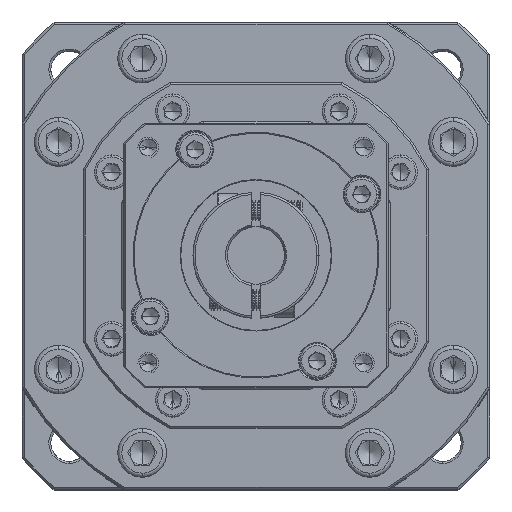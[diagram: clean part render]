
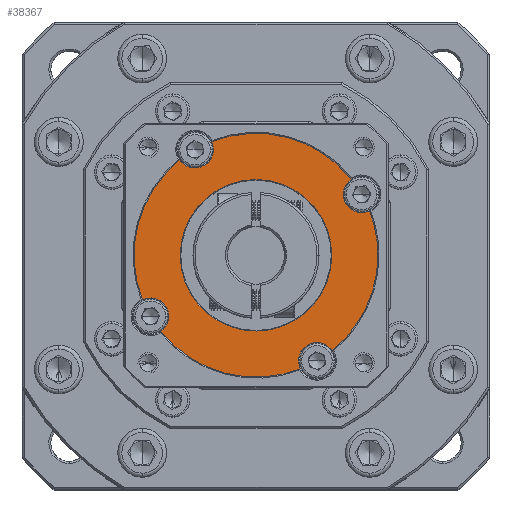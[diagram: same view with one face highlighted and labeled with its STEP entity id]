
A CAD part, top view. The second image highlights one B-rep face of the part: STEP entity #38367.
In plain terms, the highlighted planar face has unit normal (0, 0, 1).
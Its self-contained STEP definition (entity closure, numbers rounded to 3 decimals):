
#211 = DIRECTION ( 'NONE',  ( 1., 0., 0. ) ) ;
#221 = CARTESIAN_POINT ( 'NONE',  ( -82.245, 15.296, -11.319 ) ) ;
#235 = CARTESIAN_POINT ( 'NONE',  ( -54.313, 26.241, -11.319 ) ) ;
#1823 = VERTEX_POINT ( 'NONE', #35841 ) ;
#3402 = CARTESIAN_POINT ( 'NONE',  ( -32.832, 41.241, -11.319 ) ) ;
#3952 = AXIS2_PLACEMENT_3D ( 'NONE', #37908, #106344, #47761 ) ;
#4281 = DIRECTION ( 'NONE',  ( 1., 0., 0. ) ) ;
#4563 = ORIENTED_EDGE ( 'NONE', *, *, #77860, .T. ) ;
#5313 = DIRECTION ( 'NONE',  ( 0., 0., 1. ) ) ;
#5608 = DIRECTION ( 'NONE',  ( 1., 0., 0. ) ) ;
#6328 = AXIS2_PLACEMENT_3D ( 'NONE', #235, #68650, #10043 ) ;
#6983 = CARTESIAN_POINT ( 'NONE',  ( -54.313, 26.241, -11.319 ) ) ;
#7146 = CIRCLE ( 'NONE', #91764, 4.5 ) ;
#7533 = DIRECTION ( 'NONE',  ( 0., 0., 1. ) ) ;
#10043 = DIRECTION ( 'NONE',  ( 1., 0., 0. ) ) ;
#10052 = AXIS2_PLACEMENT_3D ( 'NONE', #66118, #7533, #75944 ) ;
#10499 = ORIENTED_EDGE ( 'NONE', *, *, #64043, .T. ) ;
#10825 = CARTESIAN_POINT ( 'NONE',  ( -35.669, 26.241, -11.319 ) ) ;
#11003 = VERTEX_POINT ( 'NONE', #38853 ) ;
#11842 = EDGE_LOOP ( 'NONE', ( #80995, #52111, #87185, #17553, #74773, #10499, #28534, #23806, #59337, #120708, #29396, #87910, #59501 ) ) ;
#13379 = VERTEX_POINT ( 'NONE', #15292 ) ;
#15074 = FACE_OUTER_BOUND ( 'NONE', #11842, .T. ) ;
#15292 = CARTESIAN_POINT ( 'NONE',  ( -72.957, 26.241, -11.319 ) ) ;
#16817 = DIRECTION ( 'NONE',  ( 1., 0., 0. ) ) ;
#16921 = DIRECTION ( 'NONE',  ( 0., 0., -1. ) ) ;
#17553 = ORIENTED_EDGE ( 'NONE', *, *, #78225, .F. ) ;
#19104 = CARTESIAN_POINT ( 'NONE',  ( -65.258, 54.174, -11.319 ) ) ;
#19346 = DIRECTION ( 'NONE',  ( 0., 0., 1. ) ) ;
#19433 = AXIS2_PLACEMENT_3D ( 'NONE', #63894, #5313, #73728 ) ;
#19662 = CIRCLE ( 'NONE', #6328, 30. ) ;
#21612 = VERTEX_POINT ( 'NONE', #113454 ) ;
#22707 = CIRCLE ( 'NONE', #57807, 4.5 ) ;
#23200 = EDGE_CURVE ( 'NONE', #25458, #31522, #123986, .T. ) ;
#23695 = DIRECTION ( 'NONE',  ( 0., 0., 1. ) ) ;
#23806 = ORIENTED_EDGE ( 'NONE', *, *, #99669, .F. ) ;
#24233 = CARTESIAN_POINT ( 'NONE',  ( -30.868, 44.959, -11.319 ) ) ;
#24310 = AXIS2_PLACEMENT_3D ( 'NONE', #6983, #75408, #16817 ) ;
#25458 = VERTEX_POINT ( 'NONE', #117214 ) ;
#25474 = CIRCLE ( 'NONE', #40414, 18.644 ) ;
#28534 = ORIENTED_EDGE ( 'NONE', *, *, #84833, .F. ) ;
#29396 = ORIENTED_EDGE ( 'NONE', *, *, #109685, .F. ) ;
#30785 = DIRECTION ( 'NONE',  ( 0., 0., 1. ) ) ;
#31400 = AXIS2_PLACEMENT_3D ( 'NONE', #82233, #23695, #92138 ) ;
#31522 = VERTEX_POINT ( 'NONE', #221 ) ;
#31700 = VERTEX_POINT ( 'NONE', #119881 ) ;
#32922 = VERTEX_POINT ( 'NONE', #10825 ) ;
#35272 = DIRECTION ( 'NONE',  ( 0., 0., 1. ) ) ;
#35841 = CARTESIAN_POINT ( 'NONE',  ( -64.813, 52.222, -11.319 ) ) ;
#37381 = DIRECTION ( 'NONE',  ( 0., 0., 1. ) ) ;
#37908 = CARTESIAN_POINT ( 'NONE',  ( -54.313, 26.241, -11.319 ) ) ;
#38003 = FACE_BOUND ( 'NONE', #118939, .T. ) ;
#38367 = ADVANCED_FACE ( 'NONE', ( #38003, #15074 ), #105537, .T. ) ;
#38853 = CARTESIAN_POINT ( 'NONE',  ( -43.813, 0.261, -11.319 ) ) ;
#39619 = CARTESIAN_POINT ( 'NONE',  ( -39.313, 0.261, -11.319 ) ) ;
#39978 = AXIS2_PLACEMENT_3D ( 'NONE', #106071, #47486, #115875 ) ;
#40414 = AXIS2_PLACEMENT_3D ( 'NONE', #117351, #58802, #211 ) ;
#42693 = AXIS2_PLACEMENT_3D ( 'NONE', #93891, #35272, #103675 ) ;
#46623 = CIRCLE ( 'NONE', #64880, 4.5 ) ;
#47486 = DIRECTION ( 'NONE',  ( 0., 0., 1. ) ) ;
#47615 = CIRCLE ( 'NONE', #113653, 4.5 ) ;
#47761 = DIRECTION ( 'NONE',  ( 1., 0., 0. ) ) ;
#48885 = EDGE_CURVE ( 'NONE', #11003, #61759, #46623, .T. ) ;
#49511 = DIRECTION ( 'NONE',  ( 1., 0., 0. ) ) ;
#51862 = AXIS2_PLACEMENT_3D ( 'NONE', #75510, #16921, #85367 ) ;
#52111 = ORIENTED_EDGE ( 'NONE', *, *, #123773, .T. ) ;
#52199 = CIRCLE ( 'NONE', #51862, 18.644 ) ;
#53996 = AXIS2_PLACEMENT_3D ( 'NONE', #121451, #62900, #4281 ) ;
#56718 = CIRCLE ( 'NONE', #24310, 30. ) ;
#57807 = AXIS2_PLACEMENT_3D ( 'NONE', #122763, #64195, #5608 ) ;
#58802 = DIRECTION ( 'NONE',  ( 0., 0., -1. ) ) ;
#59337 = ORIENTED_EDGE ( 'NONE', *, *, #80277, .T. ) ;
#59501 = ORIENTED_EDGE ( 'NONE', *, *, #91320, .F. ) ;
#61759 = VERTEX_POINT ( 'NONE', #77919 ) ;
#62775 = CIRCLE ( 'NONE', #63426, 4.5 ) ;
#62900 = DIRECTION ( 'NONE',  ( 0., 0., 1. ) ) ;
#63426 = AXIS2_PLACEMENT_3D ( 'NONE', #89377, #30785, #99243 ) ;
#63894 = CARTESIAN_POINT ( 'NONE',  ( -80.294, 11.241, -11.319 ) ) ;
#64043 = EDGE_CURVE ( 'NONE', #122248, #31700, #97510, .T. ) ;
#64195 = DIRECTION ( 'NONE',  ( 0., 0., 1. ) ) ;
#64237 = EDGE_CURVE ( 'NONE', #32922, #13379, #25474, .T. ) ;
#64880 = AXIS2_PLACEMENT_3D ( 'NONE', #39619, #108050, #49511 ) ;
#65712 = CARTESIAN_POINT ( 'NONE',  ( -77.758, 7.524, -11.319 ) ) ;
#66118 = CARTESIAN_POINT ( 'NONE',  ( -54.313, 26.241, -11.319 ) ) ;
#66564 = EDGE_CURVE ( 'NONE', #72299, #94693, #103957, .T. ) ;
#66967 = CIRCLE ( 'NONE', #53996, 30. ) ;
#67029 = EDGE_CURVE ( 'NONE', #21612, #122248, #66967, .T. ) ;
#68650 = DIRECTION ( 'NONE',  ( 0., 0., 1. ) ) ;
#72299 = VERTEX_POINT ( 'NONE', #65712 ) ;
#73728 = DIRECTION ( 'NONE',  ( 1., 0., 0. ) ) ;
#74773 = ORIENTED_EDGE ( 'NONE', *, *, #67029, .T. ) ;
#75408 = DIRECTION ( 'NONE',  ( 0., 0., 1. ) ) ;
#75510 = CARTESIAN_POINT ( 'NONE',  ( -54.313, 26.241, -11.319 ) ) ;
#75840 = EDGE_CURVE ( 'NONE', #1823, #99590, #97562, .T. ) ;
#75944 = DIRECTION ( 'NONE',  ( 1., 0., 0. ) ) ;
#77860 = EDGE_CURVE ( 'NONE', #13379, #32922, #52199, .T. ) ;
#77910 = CARTESIAN_POINT ( 'NONE',  ( -69.313, 52.222, -11.319 ) ) ;
#77919 = CARTESIAN_POINT ( 'NONE',  ( -43.368, -1.691, -11.319 ) ) ;
#78225 = EDGE_CURVE ( 'NONE', #21612, #11003, #80952, .T. ) ;
#80277 = EDGE_CURVE ( 'NONE', #115262, #99590, #19662, .T. ) ;
#80472 = CARTESIAN_POINT ( 'NONE',  ( -24.313, 26.241, -11.319 ) ) ;
#80952 = CIRCLE ( 'NONE', #31400, 4.5 ) ;
#80995 = ORIENTED_EDGE ( 'NONE', *, *, #66564, .F. ) ;
#82233 = CARTESIAN_POINT ( 'NONE',  ( -39.313, 0.261, -11.319 ) ) ;
#84833 = EDGE_CURVE ( 'NONE', #93004, #31700, #62775, .T. ) ;
#85367 = DIRECTION ( 'NONE',  ( 1., 0., 0. ) ) ;
#87185 = ORIENTED_EDGE ( 'NONE', *, *, #48885, .F. ) ;
#87796 = DIRECTION ( 'NONE',  ( 1., 0., 0. ) ) ;
#87910 = ORIENTED_EDGE ( 'NONE', *, *, #23200, .T. ) ;
#89377 = CARTESIAN_POINT ( 'NONE',  ( -28.332, 41.241, -11.319 ) ) ;
#91320 = EDGE_CURVE ( 'NONE', #94693, #31522, #22707, .T. ) ;
#91764 = AXIS2_PLACEMENT_3D ( 'NONE', #96002, #37381, #105821 ) ;
#92138 = DIRECTION ( 'NONE',  ( 1., 0., 0. ) ) ;
#93004 = VERTEX_POINT ( 'NONE', #3402 ) ;
#93891 = CARTESIAN_POINT ( 'NONE',  ( -54.313, 26.241, -11.319 ) ) ;
#94693 = VERTEX_POINT ( 'NONE', #121301 ) ;
#96002 = CARTESIAN_POINT ( 'NONE',  ( -28.332, 41.241, -11.319 ) ) ;
#97510 = CIRCLE ( 'NONE', #10052, 30. ) ;
#97562 = CIRCLE ( 'NONE', #39978, 4.5 ) ;
#99243 = DIRECTION ( 'NONE',  ( 1., 0., 0. ) ) ;
#99590 = VERTEX_POINT ( 'NONE', #19104 ) ;
#99669 = EDGE_CURVE ( 'NONE', #115262, #93004, #7146, .T. ) ;
#103675 = DIRECTION ( 'NONE',  ( 1., 0., 0. ) ) ;
#103957 = CIRCLE ( 'NONE', #19433, 4.5 ) ;
#105537 = PLANE ( 'NONE',  #3952 ) ;
#105821 = DIRECTION ( 'NONE',  ( 1., 0., 0. ) ) ;
#106071 = CARTESIAN_POINT ( 'NONE',  ( -69.313, 52.222, -11.319 ) ) ;
#106344 = DIRECTION ( 'NONE',  ( 0., 0., 1. ) ) ;
#108050 = DIRECTION ( 'NONE',  ( 0., 0., 1. ) ) ;
#109685 = EDGE_CURVE ( 'NONE', #25458, #1823, #47615, .T. ) ;
#113454 = CARTESIAN_POINT ( 'NONE',  ( -35.596, 2.797, -11.319 ) ) ;
#113653 = AXIS2_PLACEMENT_3D ( 'NONE', #77910, #19346, #87796 ) ;
#114047 = ORIENTED_EDGE ( 'NONE', *, *, #64237, .T. ) ;
#115262 = VERTEX_POINT ( 'NONE', #24233 ) ;
#115875 = DIRECTION ( 'NONE',  ( 1., 0., 0. ) ) ;
#117214 = CARTESIAN_POINT ( 'NONE',  ( -73.03, 49.686, -11.319 ) ) ;
#117351 = CARTESIAN_POINT ( 'NONE',  ( -54.313, 26.241, -11.319 ) ) ;
#118939 = EDGE_LOOP ( 'NONE', ( #114047, #4563 ) ) ;
#119881 = CARTESIAN_POINT ( 'NONE',  ( -26.381, 37.187, -11.319 ) ) ;
#120708 = ORIENTED_EDGE ( 'NONE', *, *, #75840, .F. ) ;
#121301 = CARTESIAN_POINT ( 'NONE',  ( -75.794, 11.241, -11.319 ) ) ;
#121451 = CARTESIAN_POINT ( 'NONE',  ( -54.313, 26.241, -11.319 ) ) ;
#122248 = VERTEX_POINT ( 'NONE', #80472 ) ;
#122763 = CARTESIAN_POINT ( 'NONE',  ( -80.294, 11.241, -11.319 ) ) ;
#123773 = EDGE_CURVE ( 'NONE', #72299, #61759, #56718, .T. ) ;
#123986 = CIRCLE ( 'NONE', #42693, 30. ) ;
